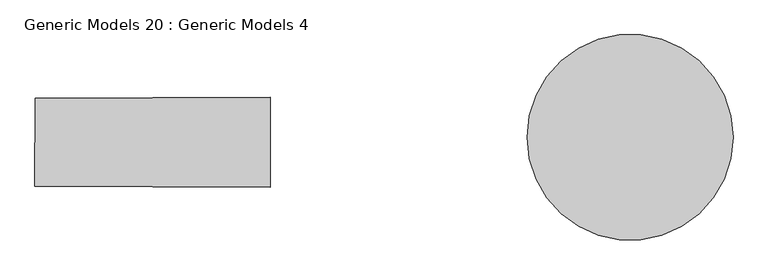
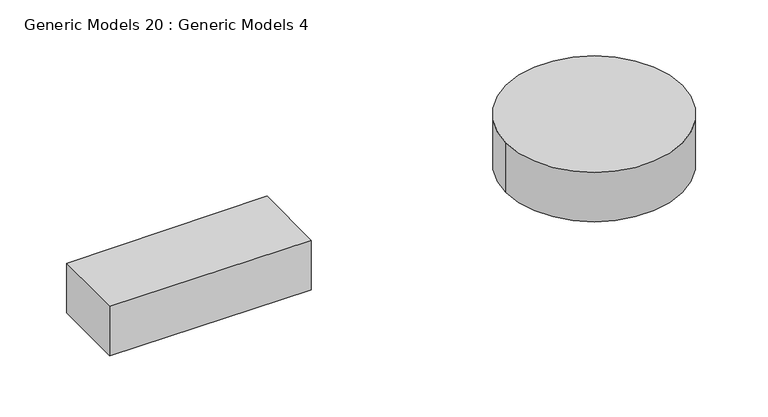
"""IFC4 building model written with IfcOpenShell, lengths in millimetres: proxy geometry, Generic Models 20 : Generic Models 4."""

import ifcopenshell
import ifcopenshell.guid

model = None  # the IFC model being written
_history = None  # IfcOwnerHistory: only IFC2X3 demands one
_inside = {}  # id of a spatial element -> (the spatial element, [elements in it])
_under = {}  # id of a project, library or spatial element -> (it, [spatial elements below it])
_declared = {}  # id of a project -> (the project, [libraries it declares])
_typed = {}  # id of a type object -> (the type object, [elements of that type])
_made_of = {}  # id of a material, layer set ... -> (it, [elements and type objects made of it])


def new_model(schema):
    """Start an empty IFC model of exactly this schema.

    Asked for "IFC4X3", IfcOpenShell would pick the latest addendum, in which some entities
    have other attributes; the version numbers below select the first issue.
    IFC2X3 requires an IfcOwnerHistory on every rooted entity: one is made here for all.
    """
    global model, _history
    if schema == "IFC4X3":
        model = ifcopenshell.file(schema_version=(4, 3, 0, 0))
    else:
        model = ifcopenshell.file(schema=schema)
    _inside.clear()
    _under.clear()
    _declared.clear()
    _typed.clear()
    _made_of.clear()
    _history = None
    if model.schema == "IFC2X3":
        org = make("IfcOrganization", Name="unknown")
        user = make(
            "IfcPersonAndOrganization",
            ThePerson=make("IfcPerson", FamilyName="unknown"),
            TheOrganization=org,
        )
        app = make(
            "IfcApplication",
            ApplicationDeveloper=org,
            Version="unknown",
            ApplicationFullName="unknown",
            ApplicationIdentifier="unknown",
        )
        _history = make(
            "IfcOwnerHistory",
            OwningUser=user,
            OwningApplication=app,
            ChangeAction="ADDED",
            CreationDate=0,
        )
    return model


def make(cls, **values):
    """One entity of the class cls with the attributes given. An attribute that is None is left unset."""
    return model.create_entity(
        cls, **{name: value for name, value in values.items() if value is not None}
    )


def rooted(cls, **values):
    """An entity with a GlobalId (a new one), such as an element, a storey or a relation."""
    return make(cls, GlobalId=ifcopenshell.guid.new(), OwnerHistory=_history, **values)


def si_unit(unit_type, name, prefix=None):
    """IfcSIUnit, for example si_unit("LENGTHUNIT", "METRE", prefix="MILLI")."""
    return make("IfcSIUnit", UnitType=unit_type, Prefix=prefix, Name=name)


def assignment(units):
    """IfcUnitAssignment: the units of a project."""
    return None if units is None else make("IfcUnitAssignment", Units=units)


def point(xyz):
    """IfcCartesianPoint."""
    return None if xyz is None else make("IfcCartesianPoint", Coordinates=xyz)


def direction(xyz):
    """IfcDirection."""
    return None if xyz is None else make("IfcDirection", DirectionRatios=xyz)


def frame(location, z_axis=None, x_axis=None):
    """IfcAxis2Placement3D, a coordinate frame: its origin and axes. An axis left out is left unset."""
    return make(
        "IfcAxis2Placement3D",
        Location=point(location),
        Axis=direction(z_axis),
        RefDirection=direction(x_axis),
    )


def frame_2d(location, x_axis=None):
    """IfcAxis2Placement2D, a coordinate frame in the plane: its origin and x axis."""
    return make(
        "IfcAxis2Placement2D", Location=point(location), RefDirection=direction(x_axis)
    )


def origin():
    """The frame at (0, 0, 0) with its axes left unset."""
    return frame((0.0, 0.0, 0.0))


def place(relative_to, where):
    """IfcLocalPlacement: puts the frame where relative to a parent placement (None: the world)."""
    return make(
        "IfcLocalPlacement", PlacementRelTo=relative_to, RelativePlacement=where
    )


def context(
    kind, dimensions, precision=None, world=None, true_north=None, identifier=None
):
    """IfcGeometricRepresentationContext, for example the 3D "Model" context."""
    return make(
        "IfcGeometricRepresentationContext",
        ContextIdentifier=identifier,
        ContextType=kind,
        CoordinateSpaceDimension=dimensions,
        Precision=precision,
        WorldCoordinateSystem=world,
        TrueNorth=true_north,
    )


def project(units=None, contexts=None):
    """IfcProject with its units and contexts."""
    return rooted(
        "IfcProject",
        Name="project",
        RepresentationContexts=contexts,
        UnitsInContext=assignment(units),
    )


def spatial(cls, under=None, at=None, **own):
    """A site, building, storey or space (cls), placed at a placement, below another one or the project."""
    s = rooted(cls, ObjectPlacement=at, **own)
    if under is not None:
        _under.setdefault(under.id(), (under, []))[1].append(s)
    return s


def polyline(points):
    """IfcPolyline through the points."""
    return make("IfcPolyline", Points=[point(p) for p in points])


def circle_curve(where, radius):
    """IfcCircle in the frame where."""
    return make("IfcCircle", Position=where, Radius=radius)


def trimmed(basis, trim1, trim2, sense, master):
    """IfcTrimmedCurve: the piece of a basis curve between two trims."""
    return make(
        "IfcTrimmedCurve",
        BasisCurve=basis,
        Trim1=trim1,
        Trim2=trim2,
        SenseAgreement=sense,
        MasterRepresentation=master,
    )


def segment(curve, same_sense, transition):
    """IfcCompositeCurveSegment."""
    return make(
        "IfcCompositeCurveSegment",
        Transition=transition,
        SameSense=same_sense,
        ParentCurve=curve,
    )


def composite_curve(segments, self_intersect=None):
    """IfcCompositeCurve: segments joined end to end."""
    return make("IfcCompositeCurve", Segments=segments, SelfIntersect=self_intersect)


def outline(outer, holes=None, kind="AREA"):
    """IfcArbitraryClosedProfileDef: a profile drawn as a closed curve; with holes, ...WithVoids."""
    if holes is None:
        return make("IfcArbitraryClosedProfileDef", ProfileType=kind, OuterCurve=outer)
    return make(
        "IfcArbitraryProfileDefWithVoids",
        ProfileType=kind,
        OuterCurve=outer,
        InnerCurves=holes,
    )


def extrude(swept, where, along, depth):
    """IfcExtrudedAreaSolid: the profile swept, set in the frame where, extruded along a direction by depth."""
    return make(
        "IfcExtrudedAreaSolid",
        SweptArea=swept,
        Position=where,
        ExtrudedDirection=direction(along),
        Depth=depth,
    )


def shape(context_of_items, identifier, shape_type, items):
    """IfcShapeRepresentation: the items that make up one representation, for example the "Body"."""
    return make(
        "IfcShapeRepresentation",
        ContextOfItems=context_of_items,
        RepresentationIdentifier=identifier,
        RepresentationType=shape_type,
        Items=items,
    )


def source(mapping_origin, context_of_items, identifier, shape_type, items):
    """IfcRepresentationMap: a shape defined once, which mapped items show again and again."""
    return make(
        "IfcRepresentationMap",
        MappingOrigin=mapping_origin,
        MappedRepresentation=shape(context_of_items, identifier, shape_type, items),
    )


def transform(
    local_origin,
    x_axis=None,
    y_axis=None,
    z_axis=None,
    scale=None,
    scale2=None,
    scale3=None,
    uniform=True,
):
    """IfcCartesianTransformationOperator3D, or its non-uniform kind. x_axis, y_axis, z_axis: its Axis1, 2, 3."""
    if uniform:
        return make(
            "IfcCartesianTransformationOperator3D",
            Axis1=direction(x_axis),
            Axis2=direction(y_axis),
            LocalOrigin=point(local_origin),
            Scale=scale,
            Axis3=direction(z_axis),
        )
    return make(
        "IfcCartesianTransformationOperator3DnonUniform",
        Axis1=direction(x_axis),
        Axis2=direction(y_axis),
        LocalOrigin=point(local_origin),
        Scale=scale,
        Axis3=direction(z_axis),
        Scale2=scale2,
        Scale3=scale3,
    )


def mapped(mapping_source, mapping_target):
    """IfcMappedItem: shows the shape of a source again, moved by a transform."""
    return make(
        "IfcMappedItem", MappingSource=mapping_source, MappingTarget=mapping_target
    )


def made_of(thing, what):
    """Note that an element or type object is made of a material, layer set ...; save() writes the relation."""
    if what is not None:
        _made_of.setdefault(what.id(), (what, []))[1].append(thing)
    return thing


def element(
    cls,
    number,
    at=None,
    inside=None,
    cuts=None,
    type_object=None,
    material=None,
    context=None,
    identifier="Body",
    shape_type=None,
    held_by="IfcProductDefinitionShape",
    body=None,
    shapes=None,
    **own,
):
    """One element of the class cls, such as IfcWall. Its Tag is "e" and its number.

    at: its placement. inside: the storey or other place that contains it. cuts: it is an
    opening in that element (IfcRelVoidsElement). A single representation is given by context,
    identifier, shape_type and body (its items); several are given by shapes. held_by: the class
    of the entity that holds the representations. save() writes the other relations.
    """
    e = rooted(cls, Tag="e%d" % number, ObjectPlacement=at, **own)
    if body is not None:
        shapes = [shape(context, identifier, shape_type, body)]
    if shapes is not None:
        e.Representation = make(held_by, Representations=shapes)
    if inside is not None:
        _inside.setdefault(inside.id(), (inside, []))[1].append(e)
    if cuts is not None:
        rooted(
            "IfcRelVoidsElement", RelatingBuildingElement=cuts, RelatedOpeningElement=e
        )
    if type_object is not None:
        _typed.setdefault(type_object.id(), (type_object, []))[1].append(e)
    return made_of(e, material)


def aggregate(whole, parts):
    """IfcRelAggregates: a whole, such as a stair, and the parts it consists of."""
    return rooted("IfcRelAggregates", RelatingObject=whole, RelatedObjects=parts)


def save(model, path):
    """Write the relations noted so far, then the file.

    IfcRelAggregates (storeys below a building ...), IfcRelContainedInSpatialStructure (elements
    in a storey), IfcRelDefinesByType, IfcRelAssociatesMaterial and IfcRelDeclares: one each for
    every whole, place, type object, material and project.
    """
    for whole, parts in _under.values():
        aggregate(whole, parts)
    for where, things in _inside.values():
        rooted(
            "IfcRelContainedInSpatialStructure",
            RelatedElements=things,
            RelatingStructure=where,
        )
    for kind, things in _typed.values():
        rooted("IfcRelDefinesByType", RelatedObjects=things, RelatingType=kind)
    for what, things in _made_of.values():
        rooted("IfcRelAssociatesMaterial", RelatedObjects=things, RelatingMaterial=what)
    for by, libraries in _declared.values():
        rooted("IfcRelDeclares", RelatingContext=by, RelatedDefinitions=libraries)
    model.write(path)


def generic_models_20_generic_models_4_ba02a456(model_context):
    return source(origin(), model_context, "Body", "SweptSolid", [
        extrude(outline(composite_curve([segment(trimmed(circle_curve(frame_2d((-20470.6794359, -53608.459207)), 6500.1324291), [point((-26970.811865, -53608.459207))], [point((-13970.5470068, -53608.459207))], False, "CARTESIAN"), True, "CONTINUOUS"), segment(trimmed(circle_curve(frame_2d((-20470.6794359, -53608.459207)), 6500.1324291), [point((-13970.5470068, -53608.459207))], [point((-26970.811865, -53608.459207))], False, "CARTESIAN"), True, "CONTINUOUS")], self_intersect=False)), frame((0.0, 0.0, 42810.0), z_axis=(0.0, 0.0, 1.0), x_axis=(1.0, 0.0, 0.0)), (0.0, 0.0, 1.0), 3860.0),
        extrude(outline(polyline([(-58056.1303268, -56711.5726441), (-58020.9613304, -51144.8559152), (-43185.6382748, -51073.058733), (-43200.2314765, -56754.7738823), (-58056.1303268, -56711.5726441)])), frame((0.0, 0.0, 42810.0), z_axis=(0.0, 0.0, 1.0), x_axis=(1.0, 0.0, 0.0)), (0.0, 0.0, 1.0), 3860.0),
    ])


if __name__ == "__main__":
    model = new_model("IFC4")
    model_context = context("Model", 3, world=origin())
    ifc_project = project(units=[si_unit("LENGTHUNIT", "METRE", prefix="MILLI")], contexts=[model_context])
    site = spatial("IfcSite", under=ifc_project)
    building = spatial("IfcBuilding", under=site)
    placement = place(None, origin())
    generic_models_20_generic_models_4_shape = generic_models_20_generic_models_4_ba02a456(model_context)
    element("IfcBuildingElementProxy", 1, Name="Generic Models 20 : Generic Models 4", ObjectType="Generic Models 20 : Generic Models 4", at=placement, inside=building, context=model_context, shape_type="MappedRepresentation", body=[
        mapped(generic_models_20_generic_models_4_shape, transform((0.0, 0.0, 0.0), x_axis=(1.0, 0.0, 0.0), y_axis=(0.0, 1.0, 0.0), z_axis=(0.0, 0.0, 1.0))),
    ])
    save(model, "model.ifc")
